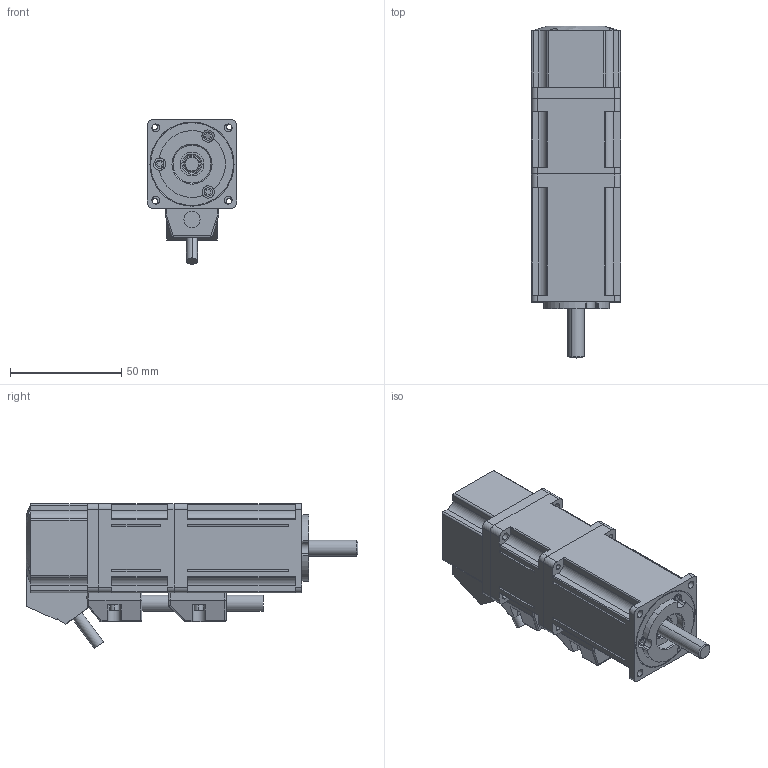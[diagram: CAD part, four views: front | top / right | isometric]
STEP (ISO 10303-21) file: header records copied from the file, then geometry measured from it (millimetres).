
FILE_DESCRIPTION (( 'STEP AP203' ), '1' );
FILE_NAME ('40ST-M00330Z.STEP', '2020-06-11T09:02:15', ( 'zengjxin' ), ( 'Microsoft' ), 'SwSTEP 2.0', 'SolidWorks 2016', '' );
FILE_SCHEMA (( 'CONFIG_CONTROL_DESIGN' ));
Length unit declared in the file: millimetre
Products named in the file (1): 40ST-M00330Z
Bounding box: 40 x 149.15 x 65.08 mm (x, y, z)
Surface area: 33899.7 mm2 (no closed solid volume)
Topology: 0 solids, 10 shells, 398 faces, 1106 edges, 720 vertices
Faces by surface type: cylinder 212, plane 161, bspline 21, cone 4
Entity records: 13125 total; most frequent: CARTESIAN_POINT 2633, DIRECTION 2288, ORIENTED_EDGE 2034, EDGE_CURVE 1098, AXIS2_PLACEMENT_3D 822, VERTEX_POINT 720, VECTOR 644, LINE 644
